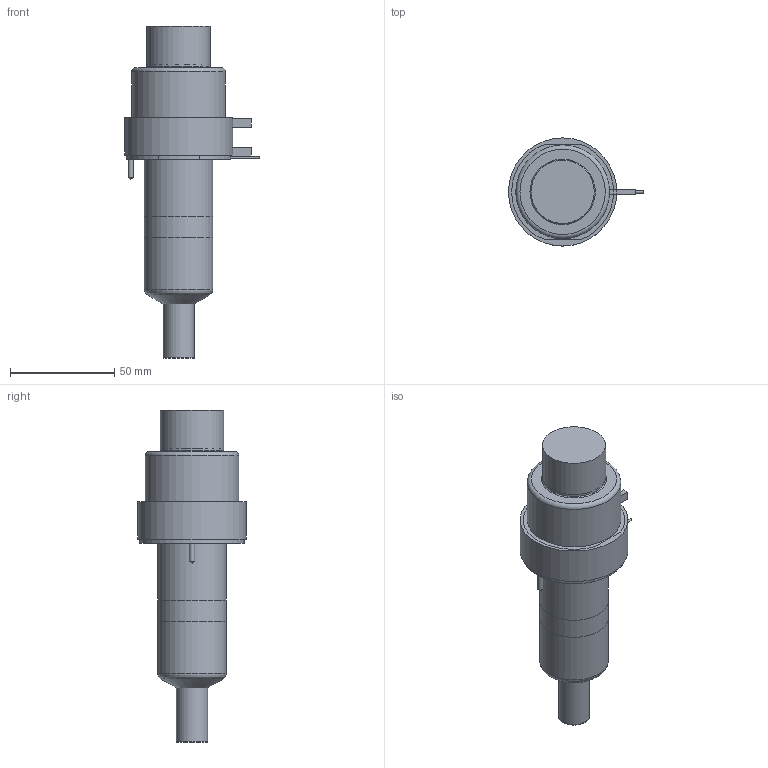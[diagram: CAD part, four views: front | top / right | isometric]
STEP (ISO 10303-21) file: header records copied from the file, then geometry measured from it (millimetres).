
FILE_DESCRIPTION(/* description */ (''),/* implementation_level */ '2;1');
FILE_NAME(/* name */ 'SXYCN19075P4U_250C_a',/* time_stamp */ '2016-03-04T16:19:17+13:00',/* author */ (''),/* organization */ (''),/* preprocessor_version */ 'ST-DEVELOPER v9',/* originating_system */ 'UGS - NX 4.0',/* authorisation */ '');
FILE_SCHEMA (('CONFIG_CONTROL_DESIGN'));
Length unit declared in the file: millimetre
Products named in the file (1): Matt1033hvlr
Bounding box: 64.85 x 52 x 159.53 mm (x, y, z)
Volume: 274631 mm3; surface area: 42693.5 mm2
Topology: 7 solids, 7 shells, 91 faces, 175 edges, 112 vertices
Faces by surface type: plane 45, cylinder 29, torus 8, cone 7, bspline 1, sphere 1
Full cylindrical faces by diameter (mm): 1 x3, 2 x1, 2.5 x2, 7 x1, 8 x1, 14.61 x1, 14.995 x2, 18.3 x1, 28.6 x1, 30 x1, 30.4 x1, 33 x2, 38.1 x1, 45 x1, 50 x1, 52 x1
Entity records: 2230 total; most frequent: CARTESIAN_POINT 435, DIRECTION 378, ORIENTED_EDGE 266, AXIS2_PLACEMENT_3D 164, EDGE_LOOP 140, EDGE_CURVE 133, VERTEX_POINT 106, ADVANCED_FACE 91
